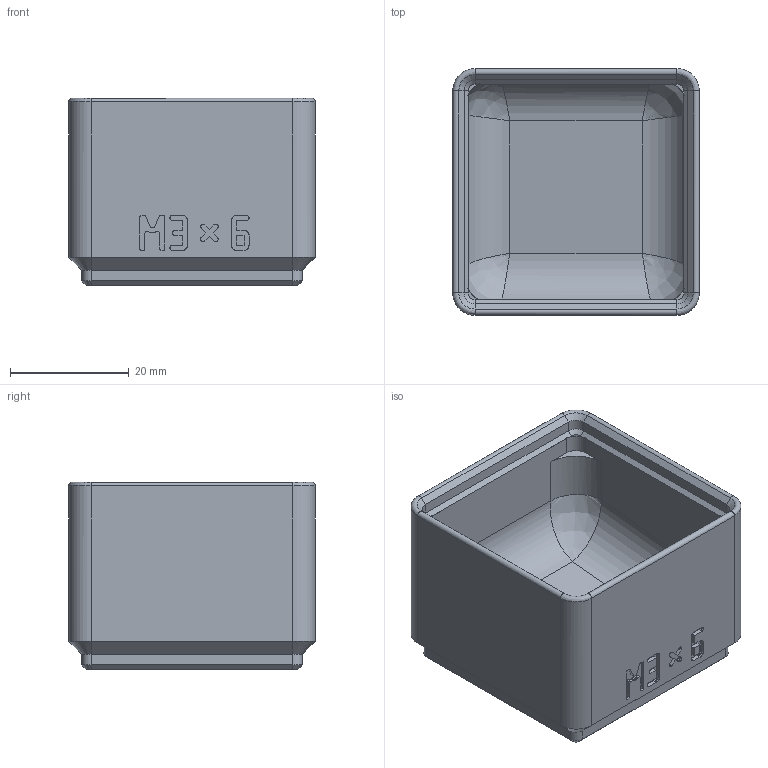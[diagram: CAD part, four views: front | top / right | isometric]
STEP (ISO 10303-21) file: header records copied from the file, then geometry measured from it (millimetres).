
FILE_DESCRIPTION(('Open CASCADE Model'),'2;1');
FILE_NAME('Open CASCADE Shape Model','2026-11-03T17:57:37',('Author'),( 'Open CASCADE'),'Open CASCADE STEP processor 8.0','build123d', 'Unknown');
FILE_SCHEMA(('AUTOMOTIVE_DESIGN { 1 0 10303 214 1 1 1 1 }'));
Length unit declared in the file: millimetre
Products named in the file (1): COMPOUND
Bounding box: 41.5 x 41.5 x 31.55 mm (x, y, z)
Volume: 18954.1 mm3; surface area: 11330.3 mm2
Topology: 1 solids, 1 shells, 549 faces, 1538 edges, 992 vertices
Faces by surface type: plane 485, cylinder 36, cone 20, bspline 8
Entity records: 38762 total; most frequent: CARTESIAN_POINT 9898, DIRECTION 4708, LINE 3494, VECTOR 3494, ORIENTED_EDGE 3068, PCURVE 3068, DEFINITIONAL_REPRESENTATION 3068, EDGE_CURVE 1534
